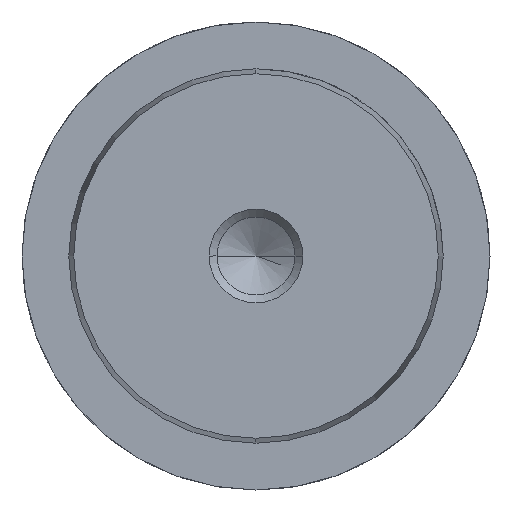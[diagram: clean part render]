
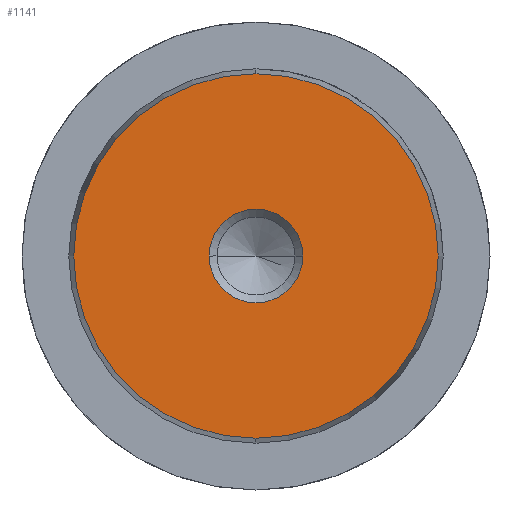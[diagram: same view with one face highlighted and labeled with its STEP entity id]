
A CAD part, left-side view. The second image highlights one B-rep face of the part: STEP entity #1141.
In plain terms, the highlighted planar face has unit normal (-1, 0, 0).
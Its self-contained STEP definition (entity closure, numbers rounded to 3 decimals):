
#1055=CARTESIAN_POINT('Vertex',(0.,0.,-15.578)) ;
#1058=CARTESIAN_POINT('Axis2P3D Location',(0.,0.,0.)) ;
#1062=CARTESIAN_POINT('Vertex',(0.,15.578,0.)) ;
#1065=CARTESIAN_POINT('Axis2P3D Location',(0.,0.,0.)) ;
#1069=CARTESIAN_POINT('Vertex',(0.,0.,15.578)) ;
#1091=CARTESIAN_POINT('Axis2P3D Location',(0.,0.,0.)) ;
#1095=CARTESIAN_POINT('Vertex',(0.,-15.578,0.)) ;
#1098=CARTESIAN_POINT('Axis2P3D Location',(0.,0.,0.)) ;
#1112=CARTESIAN_POINT('Axis2P3D Location',(0.,0.,0.)) ;
#1123=CARTESIAN_POINT('Axis2P3D Location',(0.,0.,0.)) ;
#1127=CARTESIAN_POINT('Vertex',(0.,4.,0.)) ;
#1129=CARTESIAN_POINT('Vertex',(0.,-4.,0.)) ;
#1132=CARTESIAN_POINT('Axis2P3D Location',(0.,0.,0.)) ;
#1059=DIRECTION('Axis2P3D Direction',(1.,-0.,0.)) ;
#1066=DIRECTION('Axis2P3D Direction',(1.,-0.,0.)) ;
#1092=DIRECTION('Axis2P3D Direction',(1.,0.,-0.)) ;
#1099=DIRECTION('Axis2P3D Direction',(1.,0.,-0.)) ;
#1113=DIRECTION('Axis2P3D Direction',(1.,0.,-0.)) ;
#1114=DIRECTION('Axis2P3D XDirection',(-0.,0.,-1.)) ;
#1124=DIRECTION('Axis2P3D Direction',(1.,0.,-0.)) ;
#1133=DIRECTION('Axis2P3D Direction',(1.,0.,-0.)) ;
#1060=AXIS2_PLACEMENT_3D('Circle Axis2P3D',#1058,#1059,$) ;
#1067=AXIS2_PLACEMENT_3D('Circle Axis2P3D',#1065,#1066,$) ;
#1093=AXIS2_PLACEMENT_3D('Circle Axis2P3D',#1091,#1092,$) ;
#1100=AXIS2_PLACEMENT_3D('Circle Axis2P3D',#1098,#1099,$) ;
#1115=AXIS2_PLACEMENT_3D('Plane Axis2P3D',#1112,#1113,#1114) ;
#1125=AXIS2_PLACEMENT_3D('Circle Axis2P3D',#1123,#1124,$) ;
#1134=AXIS2_PLACEMENT_3D('Circle Axis2P3D',#1132,#1133,$) ;
#1118=ORIENTED_EDGE('',*,*,#1064,.F.) ;
#1119=ORIENTED_EDGE('',*,*,#1102,.F.) ;
#1120=ORIENTED_EDGE('',*,*,#1097,.F.) ;
#1121=ORIENTED_EDGE('',*,*,#1071,.F.) ;
#1138=ORIENTED_EDGE('',*,*,#1131,.T.) ;
#1139=ORIENTED_EDGE('',*,*,#1136,.T.) ;
#1140=FACE_BOUND('',#1137,.T.) ;
#1141=ADVANCED_FACE('719-32x112',(#1122,#1140),#1116,.F.) ;
#1061=CIRCLE('generated circle',#1060,15.578) ;
#1068=CIRCLE('generated circle',#1067,15.578) ;
#1094=CIRCLE('generated circle',#1093,15.578) ;
#1101=CIRCLE('generated circle',#1100,15.578) ;
#1126=CIRCLE('generated circle',#1125,4.) ;
#1135=CIRCLE('generated circle',#1134,4.) ;
#1064=EDGE_CURVE('',#1056,#1063,#1061,.T.) ;
#1071=EDGE_CURVE('',#1063,#1070,#1068,.T.) ;
#1097=EDGE_CURVE('',#1070,#1096,#1094,.T.) ;
#1102=EDGE_CURVE('',#1096,#1056,#1101,.T.) ;
#1131=EDGE_CURVE('',#1128,#1130,#1126,.T.) ;
#1136=EDGE_CURVE('',#1130,#1128,#1135,.T.) ;
#1117=EDGE_LOOP('',(#1118,#1119,#1120,#1121)) ;
#1137=EDGE_LOOP('',(#1138,#1139)) ;
#1122=FACE_OUTER_BOUND('',#1117,.T.) ;
#1116=PLANE('Plane',#1115) ;
#1056=VERTEX_POINT('',#1055) ;
#1063=VERTEX_POINT('',#1062) ;
#1070=VERTEX_POINT('',#1069) ;
#1096=VERTEX_POINT('',#1095) ;
#1128=VERTEX_POINT('',#1127) ;
#1130=VERTEX_POINT('',#1129) ;
